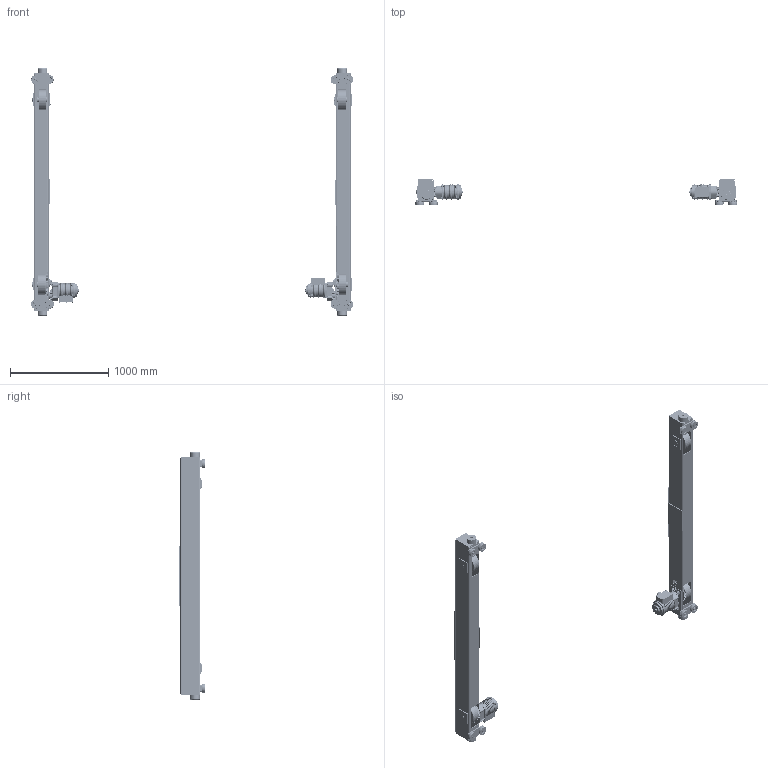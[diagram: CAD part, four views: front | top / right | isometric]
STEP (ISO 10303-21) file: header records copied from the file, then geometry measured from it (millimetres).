
FILE_DESCRIPTION (( 'STEP AP214' ), '1' );
FILE_NAME ('TML-3-0560.STEP', '2026-08-12T19:59:13', ( '' ), ( '' ), 'SwSTEP 2.0', 'SolidWorks 2026', '' );
FILE_SCHEMA (( 'AUTOMOTIVE_DESIGN' ));
Length unit declared in the file: inch
Products named in the file (71): G1JE040S9301; 62435; N6QO4501102; 6244508; 6240805X_6240805B; 6244517; 9091272_9091272; 9091250_9091250; 9000605; 9091256_B18.3.1M - 6 x 1.0 x 50 Hex SHCS -- 24CHX; 6244510; N6QO450E91311; 62434; 62436_0550-0560 - 25# RAIL; 62587; 6240820; TML-3-0560; G1JE025S9604; 6244503; 6244501; 9093101_9093101; N6Q03101108; 9091273_9091273; G1JE040S9401; T800-600-004_94.4375; G1JE040S9503; N6Q0310E9108; 6232404; G1JE040S9701; N6QO450E91013; 6244502; 9798526_9798526; N6QO4501101; 6240817X_6240817A; G1JE040S9707; 9012711_9012711; 6244513; 6240817X_6240817B; 6240805X_6240805A; G1JE040S9609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
Assembly tree (254 placements, depth 4):
  TML-3-0560
    62436_0550-0560 - 25# RAIL
      62434
        T800-600-004_94.4375
        6240820
        6240818
        6244510
        6244510
        6244510
      6244509  x2
      6244508
      6240817X_6240817A
        6240805X_6240805A
        6232305  x2
      6240817X_6240817B
        6240805X_6240805B
        6232305  x2
      6244519
      6244501
      6244502
      6244503
    62437_0550-0560 - 25# RAIL
      62435
        T800-600-004_94.4375
        6240820
        6240818
        6244510
        6244510
        6244510
      6244509  x2
      6244508
      6240817X_6240817A  x2
        6240805X_6240805A
        6232305
      6244519
      6244501
      6244502
      6244503
    N6Q03101108  x8
      N6Q0310E9108
      9047252_9047252
      9000605
    6232404  x8
    9047125_B27.7M - 3AM1-23  x8
    N6QO375207  x4
    9012514_9012514  x4
    9012711_9012711  x20
    9093101_9093101  x4
    6244517  x4
    6244513  x4
    9093327_9093327  x8
    N6QO4501101  x2
      N6QO450E91013
      N6QO450E91311
      9000709
      9091272_9091272
      9012711_9012711
    N6QO4501102  x2
      N6QO450E9102
      9000709
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Bounding box: 3278.67 x 261.94 x 2514.76 mm (x, y, z)
Volume: 44743190.9 mm3; surface area: 10943472.3 mm2
Topology: 274 solids, 338 shells, 15450 faces, 39408 edges, 25248 vertices
Faces by surface type: plane 8026, cylinder 3678, bspline 1770, torus 898, cone 866, sphere 212
Entity records: 182156 total; most frequent: CARTESIAN_POINT 76383, ORIENTED_EDGE 21230, DIRECTION 19249, EDGE_CURVE 10619, AXIS2_PLACEMENT_3D 7285, VERTEX_POINT 6772, EDGE_LOOP 4711, LINE 4679
